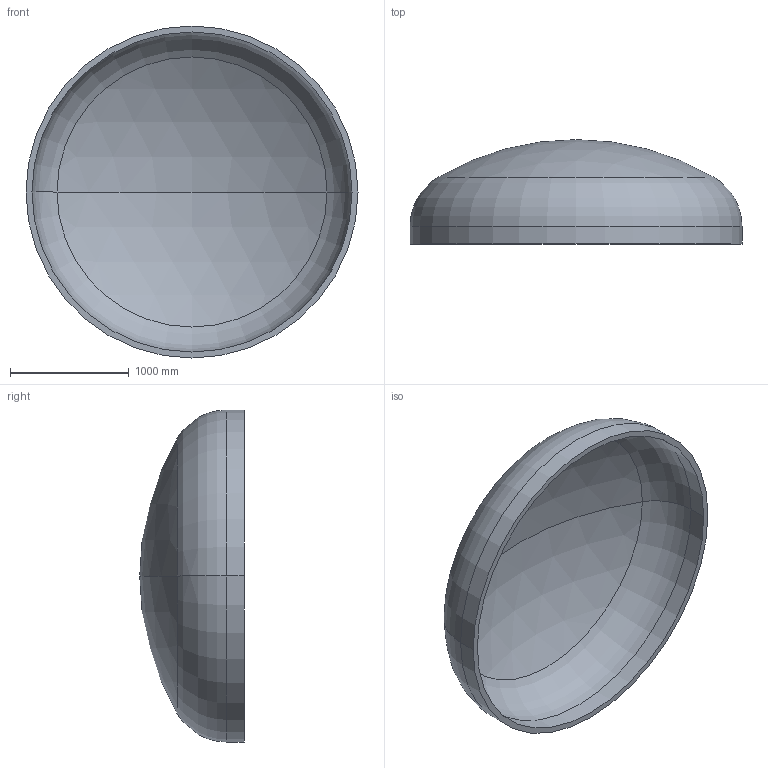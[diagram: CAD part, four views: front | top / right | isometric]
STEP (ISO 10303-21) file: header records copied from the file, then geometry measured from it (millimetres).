
FILE_DESCRIPTION (( 'STEP AP203' ), '1' );
FILE_NAME ('DIN 28013 Korbbogenform_-_Boden DIN 28013 - 2800 x 150 - I - s=50.step', '2016-07-01T17:03:40', ( '' ), ( '' ), 'SwSTEP 2.0', 'SolidWorks 2013', '' );
FILE_SCHEMA (( 'CONFIG_CONTROL_DESIGN' ));
Length unit declared in the file: millimetre
Products named in the file (1): DIN 28013 Korbbogenform_-_Boden DIN 28013 - 2800 x 150 - I - s=50
Bounding box: 2800 x 881.25 x 2800 mm (x, y, z)
Volume: 481048212.9 mm3; surface area: 19679127.1 mm2
Topology: 1 solids, 1 shells, 13 faces, 24 edges, 14 vertices
Faces by surface type: torus 4, cylinder 4, sphere 4, plane 1
Entity records: 407 total; most frequent: DIRECTION 72, CARTESIAN_POINT 52, ORIENTED_EDGE 48, AXIS2_PLACEMENT_3D 34, EDGE_CURVE 24, CIRCLE 20, VERTEX_POINT 14, EDGE_LOOP 14
